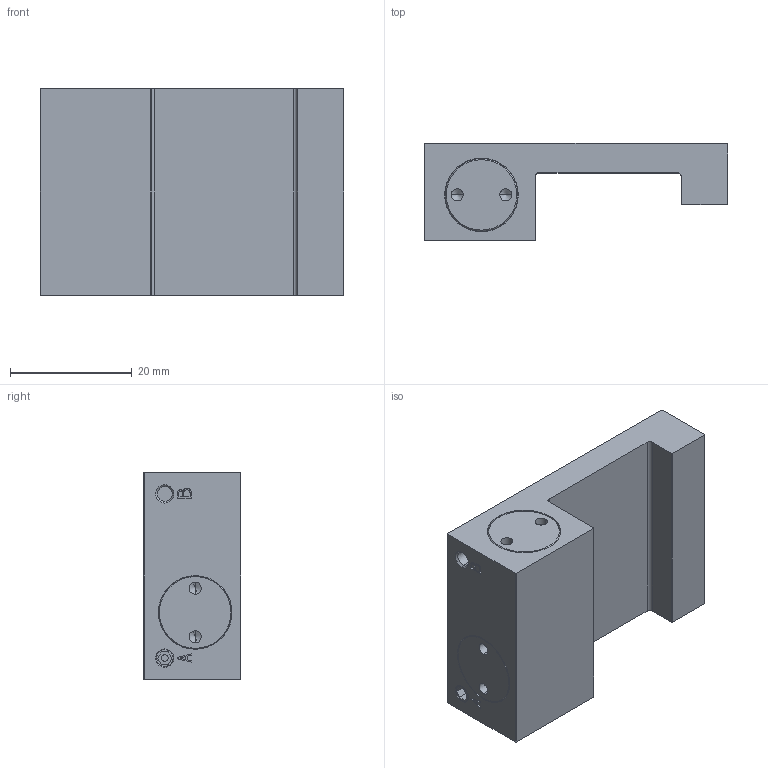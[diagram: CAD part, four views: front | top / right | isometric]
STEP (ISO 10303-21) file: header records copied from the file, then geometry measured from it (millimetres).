
FILE_DESCRIPTION( ( '' ), '1' );
FILE_NAME( 'E:/04 嬴檜蠱滌/0404 ZIMMER/040414 ZIMMER CAD download/MCP/MCP1200MW---.stp', '2020-04-16T10:02:10', ( '' ), ( '' ), ' ', ' ', ' ' );
FILE_SCHEMA( ( 'automotive_design' ) );
Length unit declared in the file: millimetre
Products named in the file (1): 1
Bounding box: 50 x 16.05 x 34 mm (x, y, z)
Volume: 16476.9 mm3; surface area: 6208.8 mm2
Topology: 1 solids, 1 shells, 114 faces, 268 edges, 168 vertices
Faces by surface type: plane 60, cylinder 32, cone 22
Entity records: 6272 total; most frequent: DIRECTION 570, STYLED_ITEM 543, PRESENTATION_STYLE_ASSIGNMENT 543, CARTESIAN_POINT 543, COLOUR_RGB 543, ORIENTED_EDGE 520, EDGE_CURVE 260, CURVE_STYLE 260
